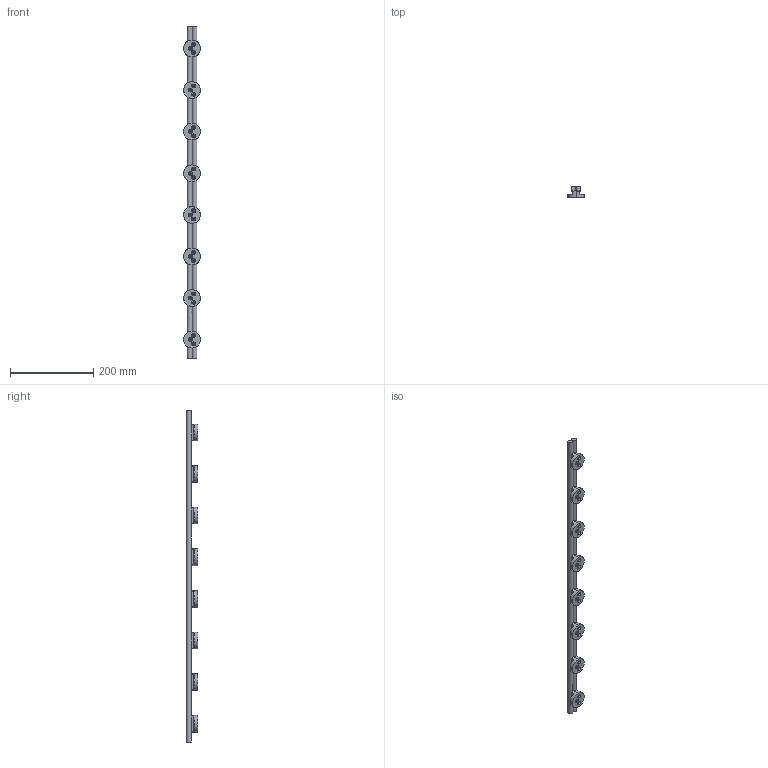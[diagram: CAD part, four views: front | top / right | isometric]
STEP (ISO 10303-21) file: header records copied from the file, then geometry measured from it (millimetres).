
FILE_DESCRIPTION (( 'STEP AP214' ), '1' );
FILE_NAME ('LF 1_-_LF 1 798 mm lang.step', '2005-06-03T05:53:10', ( ' ' ), ( ' ' ), 'SwSTEP 2.0', 'SolidWorks 2004231', '' );
FILE_SCHEMA (( 'AUTOMOTIVE_DESIGN' ));
Length unit declared in the file: millimetre
Products named in the file (1): LF 1_-_LF 1  798 mm lang
Bounding box: 40 x 27 x 798 mm (x, y, z)
Volume: 289765.1 mm3; surface area: 101251 mm2
Topology: 1 solids, 1 shells, 895 faces, 2215 edges, 1338 vertices
Faces by surface type: plane 420, cylinder 347, cone 80, torus 48
Entity records: 27371 total; most frequent: CARTESIAN_POINT 7525, ORIENTED_EDGE 4270, DIRECTION 3845, EDGE_CURVE 2135, AXIS2_PLACEMENT_3D 1366, VERTEX_POINT 1338, VECTOR 1113, LINE 1113
